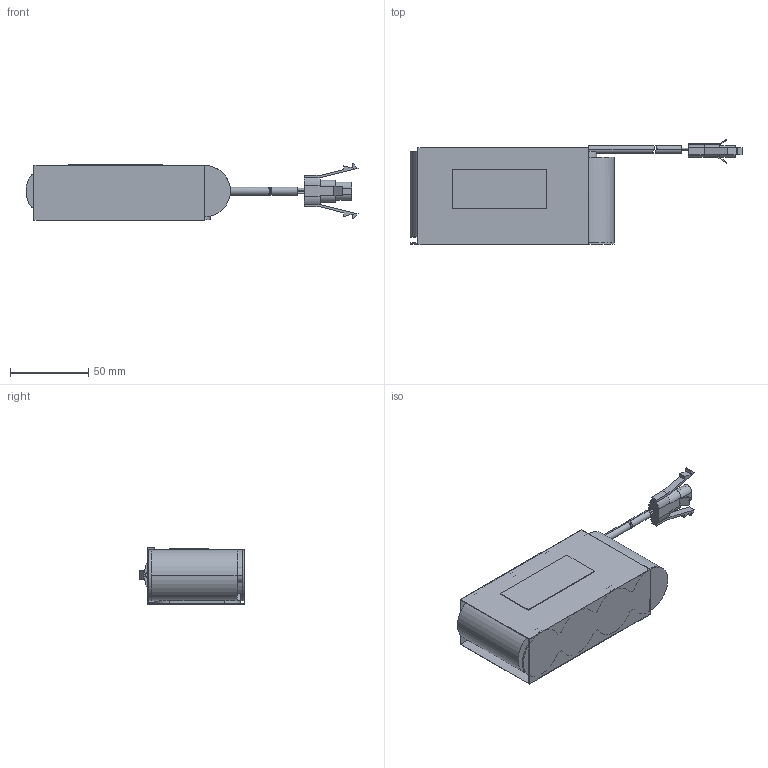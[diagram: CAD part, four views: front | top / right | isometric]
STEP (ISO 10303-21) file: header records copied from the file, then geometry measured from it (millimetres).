
FILE_DESCRIPTION((''),'2;1');
FILE_NAME('15012480Z_DMEC_89800385_4B-55','2018-07-11T13:10:57',('Emanuel.Wild'),(''),'CREO PARAMETRIC BY PTC INC, 2017380','CREO PARAMETRIC BY PTC INC, 2017380','');
FILE_SCHEMA(('AUTOMOTIVE_DESIGN { 1 0 10303 214 1 1 1 1 }'));
Length unit declared in the file: millimetre
Products named in the file (1): 15012480Z_DMEC_89800385_4B-55
Bounding box: 211.81 x 67.55 x 36.09 mm (x, y, z)
Volume: 217969.6 mm3; surface area: 74373.5 mm2
Topology: 3 solids, 3 shells, 244 faces, 693 edges, 453 vertices
Faces by surface type: plane 139, cylinder 94, torus 9, extrusion 2
Entity records: 8692 total; most frequent: CARTESIAN_POINT 1890, ORIENTED_EDGE 1386, DIRECTION 1256, EDGE_CURVE 693, VERTEX_POINT 453, AXIS2_PLACEMENT_3D 427, VECTOR 402, LINE 400
